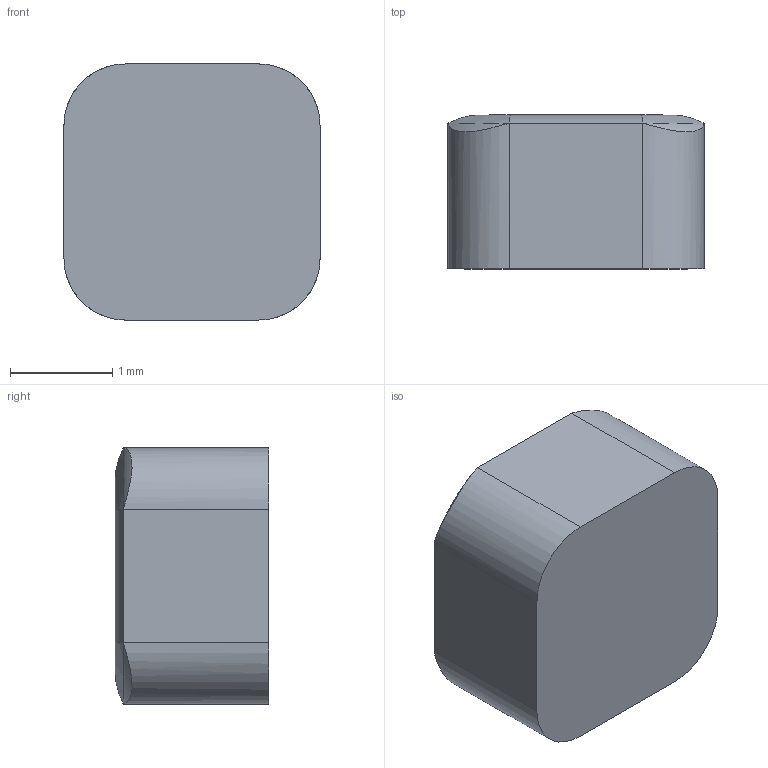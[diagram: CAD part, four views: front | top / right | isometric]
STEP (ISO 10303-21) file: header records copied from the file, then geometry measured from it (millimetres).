
FILE_DESCRIPTION((''),'2;1');
FILE_NAME('3D-2013003-1215F_ASM','2022-04-25T',('TPS'),(''),'CREO PARAMETRIC BY PTC INC, 2015290','CREO PARAMETRIC BY PTC INC, 2015290','');
FILE_SCHEMA(('CONFIG_CONTROL_DESIGN'));
Products named in the file (2): 2013003-C-1215_TAP; 3D-2013003-1215F_ASM
Assembly tree (1 placements, depth 2):
  3D-2013003-1215F_ASM
    2013003-C-1215_TAP
Bounding box: 2.5 x 1.5 x 2.5 mm (x, y, z)
Volume: 7.4 mm3; surface area: 30.5 mm2
Topology: 1 solids, 1 shells, 40 faces, 91 edges, 54 vertices
Faces by surface type: cylinder 16, plane 9, torus 6, revolution 4, bspline 3, cone 2
Entity records: 2636 total; most frequent: CARTESIAN_POINT 1731, ORIENTED_EDGE 182, DIRECTION 157, EDGE_CURVE 91, AXIS2_PLACEMENT_3D 58, VERTEX_POINT 54, EDGE_LOOP 41, FACE_OUTER_BOUND 40
